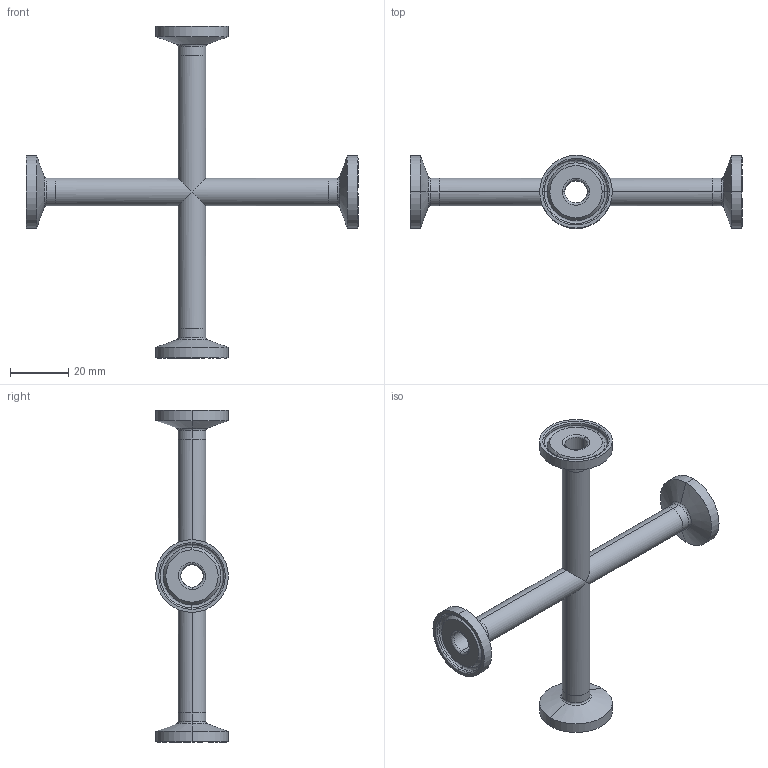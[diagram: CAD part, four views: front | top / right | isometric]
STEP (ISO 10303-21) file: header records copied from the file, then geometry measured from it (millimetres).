
FILE_DESCRIPTION (( 'STEP AP214' ), '1' );
FILE_NAME ('TEG96L.375-...STEP', '2016-05-22T05:35:36', ( 'eran' ), ( '' ), 'SwSTEP 2.0', 'SolidWorks 2016', '' );
FILE_SCHEMA (( 'AUTOMOTIVE_DESIGN' ));
Length unit declared in the file: millimetre
Products named in the file (1): TEG96L.375-..
Bounding box: 114.3 x 24.99 x 114.3 mm (x, y, z)
Volume: 11806.3 mm3; surface area: 16404.1 mm2
Topology: 5 solids, 5 shells, 112 faces, 244 edges, 144 vertices
Faces by surface type: cylinder 48, bspline 32, plane 16, cone 16
Entity records: 3518 total; most frequent: CARTESIAN_POINT 1077, DIRECTION 522, ORIENTED_EDGE 488, EDGE_CURVE 244, AXIS2_PLACEMENT_3D 229, CIRCLE 148, VERTEX_POINT 144, EDGE_LOOP 128
